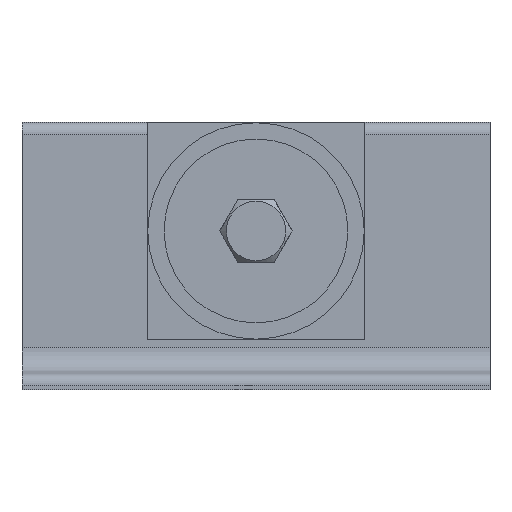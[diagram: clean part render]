
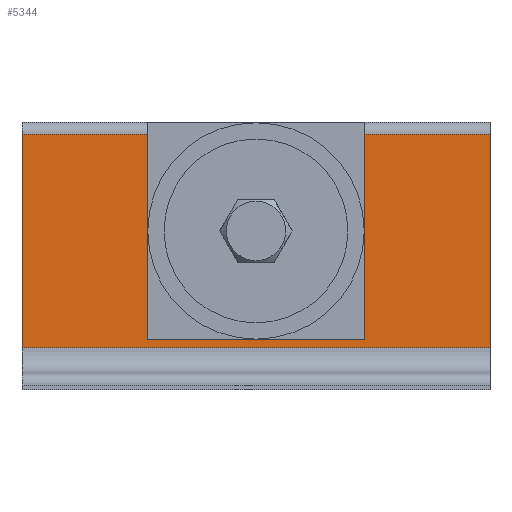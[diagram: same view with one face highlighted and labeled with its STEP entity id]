
A CAD part, front view. The second image highlights one B-rep face of the part: STEP entity #5344.
In plain terms, the highlighted planar face has unit normal (0, -1, 0).
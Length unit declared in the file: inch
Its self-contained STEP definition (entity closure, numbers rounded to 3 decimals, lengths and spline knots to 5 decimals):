
#5136=CARTESIAN_POINT('',(3.46875,-0.25,3.5));
#5137=VERTEX_POINT('',#5136);
#5138=CARTESIAN_POINT('',(2.375,-0.25,3.5));
#5139=DIRECTION('',(0.0,1.0,0.0));
#5140=DIRECTION('',(1.0,0.0,0.0));
#5141=AXIS2_PLACEMENT_3D('',#5138,#5139,#5140);
#5142=CIRCLE('',#5141,1.09375);
#5143=EDGE_CURVE('',#5137,#5137,#5142,.T.);
#5283=CARTESIAN_POINT('',(3.82,-0.25,7.));
#5284=VERTEX_POINT('',#5283);
#5292=CARTESIAN_POINT('',(3.82,-0.25,0.0));
#5293=VERTEX_POINT('',#5292);
#5294=CARTESIAN_POINT('',(3.82,-0.25,0.0));
#5295=DIRECTION('',(0.0,0.0,1.0));
#5296=VECTOR('',#5295,7.);
#5297=LINE('',#5294,#5296);
#5298=EDGE_CURVE('',#5293,#5284,#5297,.T.);
#5311=CARTESIAN_POINT('',(3.82,-0.25,0.0));
#5312=DIRECTION('',(0.0,-1.0,0.0));
#5313=DIRECTION('',(0.0,0.0,-1.0));
#5314=AXIS2_PLACEMENT_3D('',#5311,#5312,#5313);
#5315=PLANE('',#5314);
#5316=CARTESIAN_POINT('',(0.63,-0.25,7.));
#5317=VERTEX_POINT('',#5316);
#5318=CARTESIAN_POINT('',(3.82,-0.25,7.));
#5319=DIRECTION('',(-1.0,0.0,0.0));
#5320=VECTOR('',#5319,3.19);
#5321=LINE('',#5318,#5320);
#5322=EDGE_CURVE('',#5284,#5317,#5321,.T.);
#5323=ORIENTED_EDGE('',*,*,#5322,.T.);
#5324=CARTESIAN_POINT('',(0.63,-0.25,0.0));
#5325=VERTEX_POINT('',#5324);
#5326=CARTESIAN_POINT('',(0.63,-0.25,0.0));
#5327=DIRECTION('',(0.0,0.0,1.0));
#5328=VECTOR('',#5327,7.);
#5329=LINE('',#5326,#5328);
#5330=EDGE_CURVE('',#5325,#5317,#5329,.T.);
#5331=ORIENTED_EDGE('',*,*,#5330,.F.);
#5332=CARTESIAN_POINT('',(3.82,-0.25,0.0));
#5333=DIRECTION('',(-1.0,0.0,0.0));
#5334=VECTOR('',#5333,3.19);
#5335=LINE('',#5332,#5334);
#5336=EDGE_CURVE('',#5293,#5325,#5335,.T.);
#5337=ORIENTED_EDGE('',*,*,#5336,.F.);
#5338=ORIENTED_EDGE('',*,*,#5298,.T.);
#5339=EDGE_LOOP('',(#5323,#5331,#5337,#5338));
#5340=FACE_OUTER_BOUND('',#5339,.T.);
#5341=ORIENTED_EDGE('',*,*,#5143,.T.);
#5342=EDGE_LOOP('',(#5341));
#5343=FACE_BOUND('',#5342,.T.);
#5344=ADVANCED_FACE('',(#5340,#5343),#5315,.T.);
